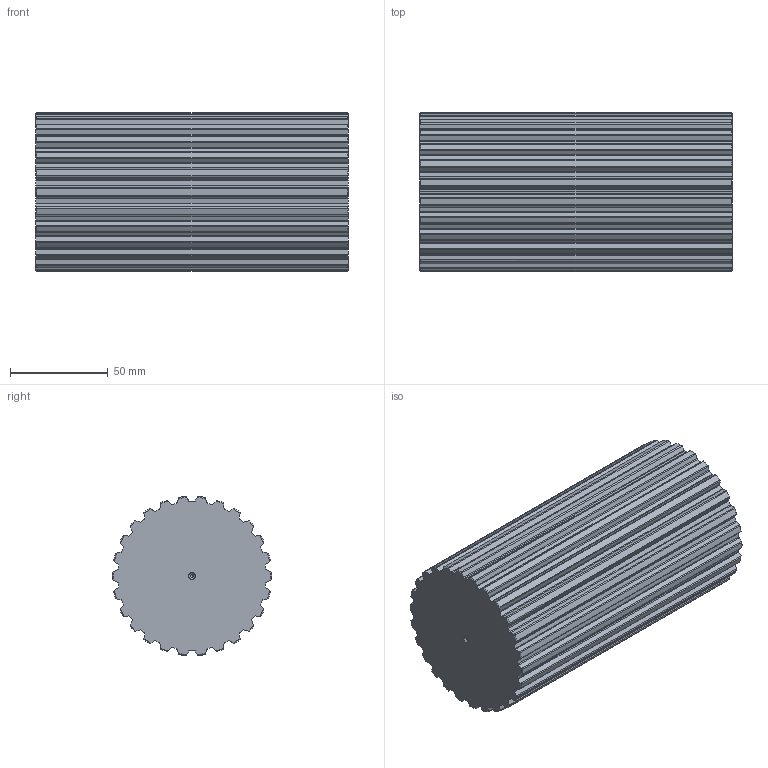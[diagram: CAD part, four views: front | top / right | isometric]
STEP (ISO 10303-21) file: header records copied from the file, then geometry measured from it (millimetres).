
FILE_DESCRIPTION(('STEP AP203'),'1');
FILE_NAME('bart_26.stp','2022-04-21T08:12:13',('TraceParts'),('TraceParts S.A.'),'Spatial InterOp 3D',' ',' ');
FILE_SCHEMA(('CONFIG_CONTROL_DESIGN'));
Length unit declared in the file: millimetre
Products named in the file (1): 1
Bounding box: 160 x 81.76 x 81.48 mm (x, y, z)
Volume: 787734.1 mm3; surface area: 62272.5 mm2
Topology: 1 solids, 1 shells, 280 faces, 826 edges, 546 vertices
Faces by surface type: cylinder 162, cone 64, plane 54
Entity records: 9842 total; most frequent: CARTESIAN_POINT 2585, ORIENTED_EDGE 1644, DIRECTION 1460, EDGE_CURVE 822, AXIS2_PLACEMENT_3D 565, VERTEX_POINT 546, LINE 330, VECTOR 330
